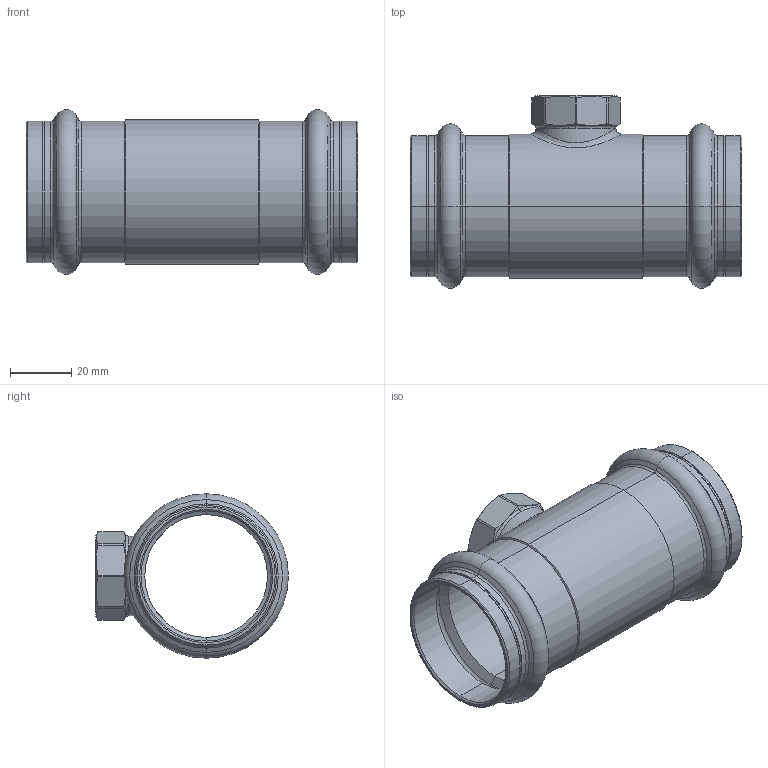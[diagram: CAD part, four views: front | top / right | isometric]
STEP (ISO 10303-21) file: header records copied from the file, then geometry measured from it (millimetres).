
FILE_DESCRIPTION (( 'STEP AP203' ), '1' );
FILE_NAME ('SP4130G Ø42 1-2 42.STEP', '2017-04-28T09:13:00', ( '' ), ( '' ), 'SwSTEP 2.0', 'SolidWorks 2016', '' );
FILE_SCHEMA (( 'CONFIG_CONTROL_DESIGN' ));
Length unit declared in the file: millimetre
Products named in the file (1): SP4130G Ø42 1-2 42
Bounding box: 108 x 62.8 x 53.6 mm (x, y, z)
Volume: 41065.2 mm3; surface area: 35247.9 mm2
Topology: 1 solids, 1 shells, 128 faces, 280 edges, 161 vertices
Faces by surface type: cylinder 44, cone 43, torus 18, plane 17, bspline 6
Entity records: 4625 total; most frequent: CARTESIAN_POINT 1722, DIRECTION 647, ORIENTED_EDGE 560, AXIS2_PLACEMENT_3D 281, EDGE_CURVE 280, VERTEX_POINT 161, CIRCLE 158, EDGE_LOOP 139
